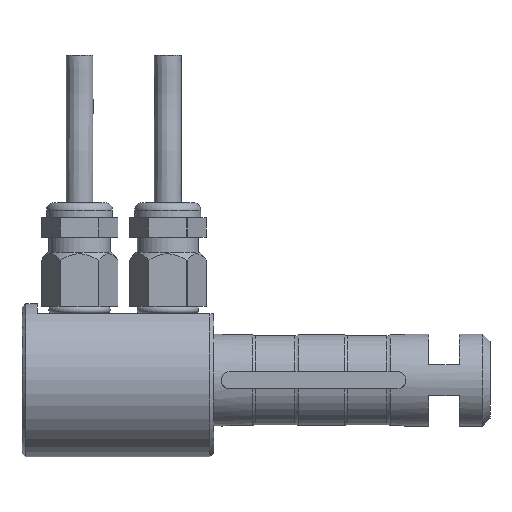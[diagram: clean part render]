
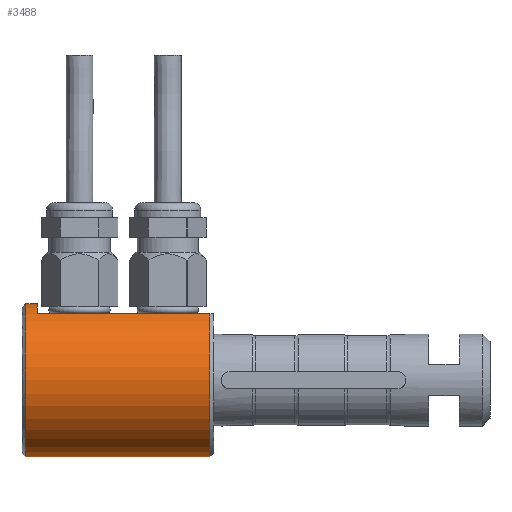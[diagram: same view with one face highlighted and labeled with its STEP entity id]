
A CAD part, front view. The second image highlights one B-rep face of the part: STEP entity #3488.
In plain terms, the highlighted cylindrical face has radius 10 mm (diameter 20 mm), a full revolution.
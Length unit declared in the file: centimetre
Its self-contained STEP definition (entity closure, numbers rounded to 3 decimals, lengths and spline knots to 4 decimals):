
#1002=VECTOR('',#4229,1.);
#1004=VECTOR('',#4231,1.);
#1251=LINE('',#5747,#1002);
#1253=LINE('',#5751,#1004);
#1513=VERTEX_POINT('',#5735);
#1516=VERTEX_POINT('',#5742);
#1518=VERTEX_POINT('',#5748);
#1519=VERTEX_POINT('',#5750);
#1520=VERTEX_POINT('',#5755);
#1652=CIRCLE('',#3709,1.);
#1654=CIRCLE('',#3713,1.);
#1655=CIRCLE('',#3714,1.);
#1987=EDGE_CURVE('',#1516,#1513,#1652,.T.);
#1989=EDGE_CURVE('',#1518,#1513,#1251,.T.);
#1991=EDGE_CURVE('',#1516,#1519,#1253,.T.);
#1993=EDGE_CURVE('',#1520,#1520,#1654,.T.);
#1994=EDGE_CURVE('',#1519,#1518,#1655,.T.);
#2623=ORIENTED_EDGE('',*,*,#1993,.F.);
#2624=ORIENTED_EDGE('',*,*,#1987,.F.);
#2625=ORIENTED_EDGE('',*,*,#1991,.T.);
#2626=ORIENTED_EDGE('',*,*,#1994,.T.);
#2627=ORIENTED_EDGE('',*,*,#1989,.T.);
#3094=EDGE_LOOP('',(#2623));
#3095=EDGE_LOOP('',(#2624,#2625,#2626,#2627));
#3295=FACE_BOUND('',#3094,.T.);
#3296=FACE_BOUND('',#3095,.T.);
#3488=ADVANCED_FACE('',(#3295,#3296),#6287,.T.);
#3709=AXIS2_PLACEMENT_3D('',#5743,#4224,#4225);
#3712=AXIS2_PLACEMENT_3D('',#5753,#4233,#4234);
#3713=AXIS2_PLACEMENT_3D('',#5754,#4235,#4236);
#3714=AXIS2_PLACEMENT_3D('',#5756,#4237,#4238);
#4224=DIRECTION('',(1.,0.,0.));
#4225=DIRECTION('',(0.,0.,-1.));
#4229=DIRECTION('',(1.,0.,0.));
#4231=DIRECTION('',(-1.,0.,0.));
#4233=DIRECTION('',(1.,0.,0.));
#4234=DIRECTION('',(0.,0.,-1.));
#4235=DIRECTION('',(-1.,0.,0.));
#4236=DIRECTION('',(0.,0.,1.));
#4237=DIRECTION('',(-1.,0.,0.));
#4238=DIRECTION('',(0.,0.,-1.));
#5735=CARTESIAN_POINT('',(2.45,0.5,0.866));
#5742=CARTESIAN_POINT('',(2.45,-0.5,0.866));
#5743=CARTESIAN_POINT('',(2.45,0.,0.));
#5747=CARTESIAN_POINT('',(1.35,0.5,0.866));
#5748=CARTESIAN_POINT('',(0.2,0.5,0.866));
#5750=CARTESIAN_POINT('',(0.2,-0.5,0.866));
#5751=CARTESIAN_POINT('',(1.35,-0.5,0.866));
#5753=CARTESIAN_POINT('',(1.25,0.,0.));
#5754=CARTESIAN_POINT('',(0.05,0.,0.));
#5755=CARTESIAN_POINT('',(0.05,0.,-1.));
#5756=CARTESIAN_POINT('',(0.2,0.,0.));
#6287=CYLINDRICAL_SURFACE('',#3712,1.);
